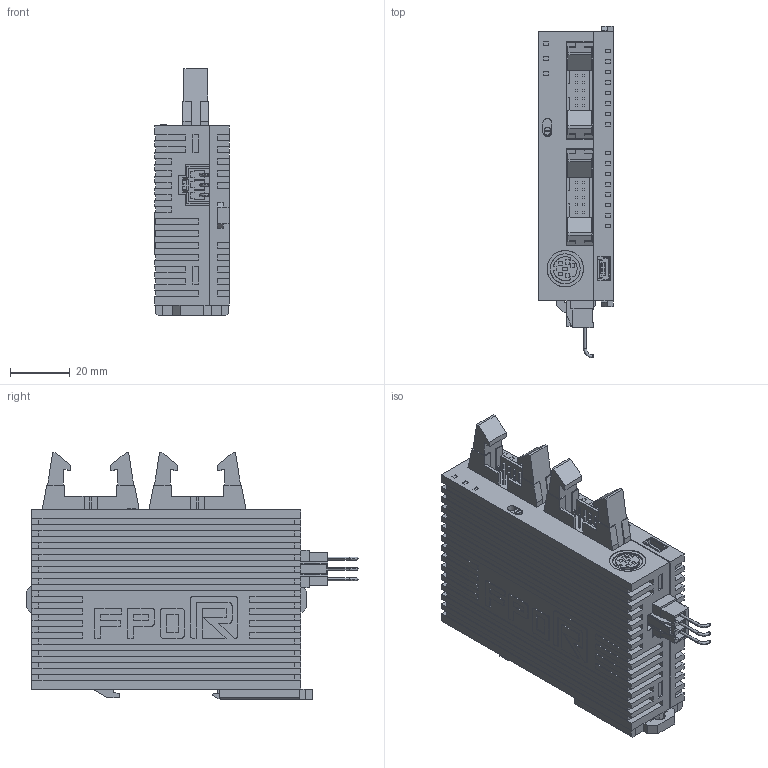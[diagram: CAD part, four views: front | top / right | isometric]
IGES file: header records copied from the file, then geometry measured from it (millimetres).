
Start section: SolidWorks IGES file using analytic representation for surfaces
Global section: file name: C:\catalog\FP0R_catalog\afp0rc16t\afp0rc16t.IGS; native system: SolidWorks 2010; preprocessor: SolidWorks 2010; author: ek1676; date: 130628.132057; units: millimetre
Bounding box: 25 x 111.2 x 82.7 mm (x, y, z)
Surface area: 30462.5 mm2 (no closed solid volume)
Topology: 0 solids, 0 shells, 1002 faces, 6380 edges, 6380 vertices
Faces by surface type: bspline 941, revolution 61
